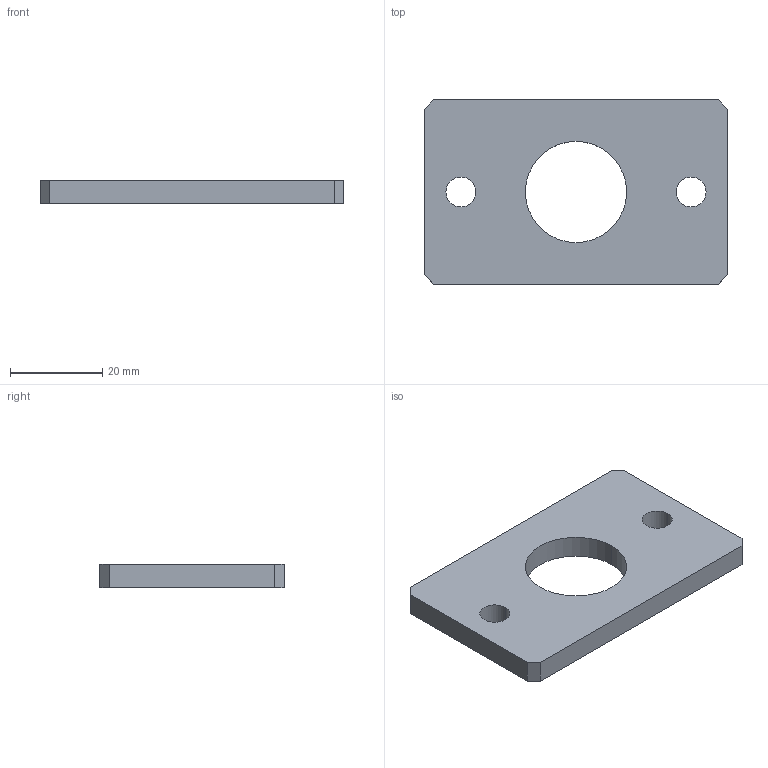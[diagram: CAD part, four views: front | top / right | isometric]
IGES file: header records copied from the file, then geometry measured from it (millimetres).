
Global section: file name: No Iges File Name specified; native system: AutoDesk Inventor R6.0; preprocessor: AutoDesk Inventor Iges Exporter R6.0; author: No Author specified; organization: No Organization specified; date: 20030408.081834; units: millimetre
Bounding box: 66 x 40 x 5 mm (x, y, z)
Volume: 10927.5 mm3; surface area: 5957.3 mm2
Topology: 1 solids, 1 shells, 16 faces, 42 edges, 28 vertices
Faces by surface type: plane 10, revolution 6
